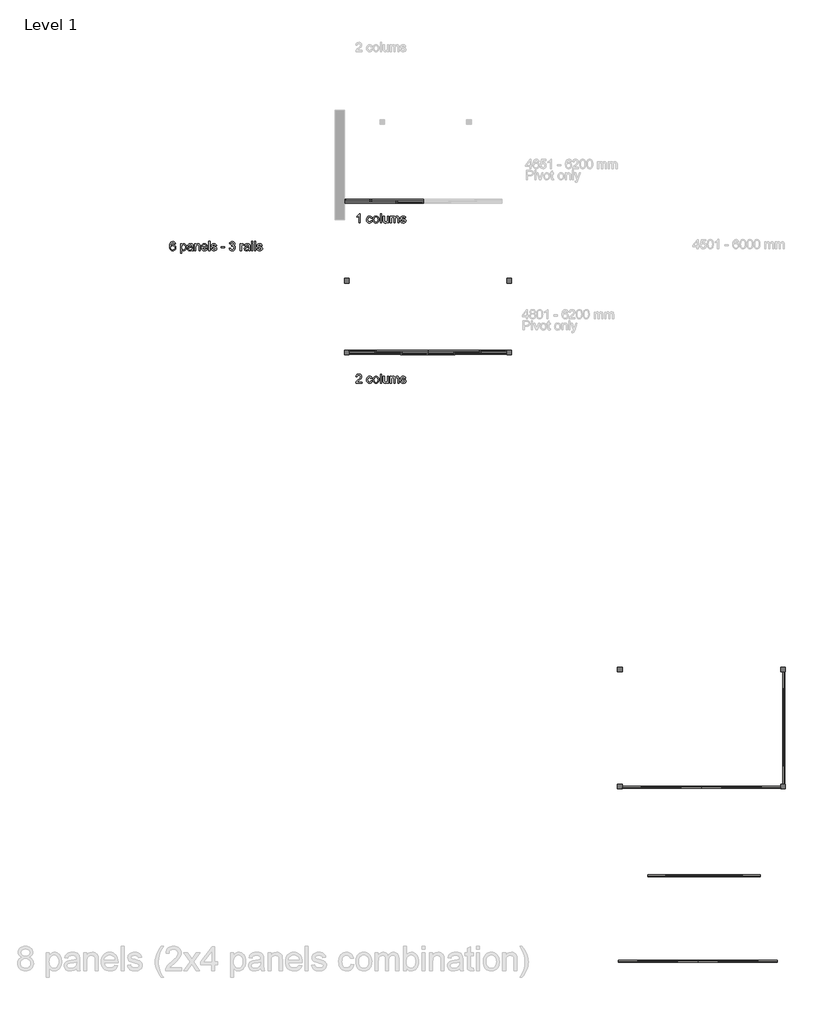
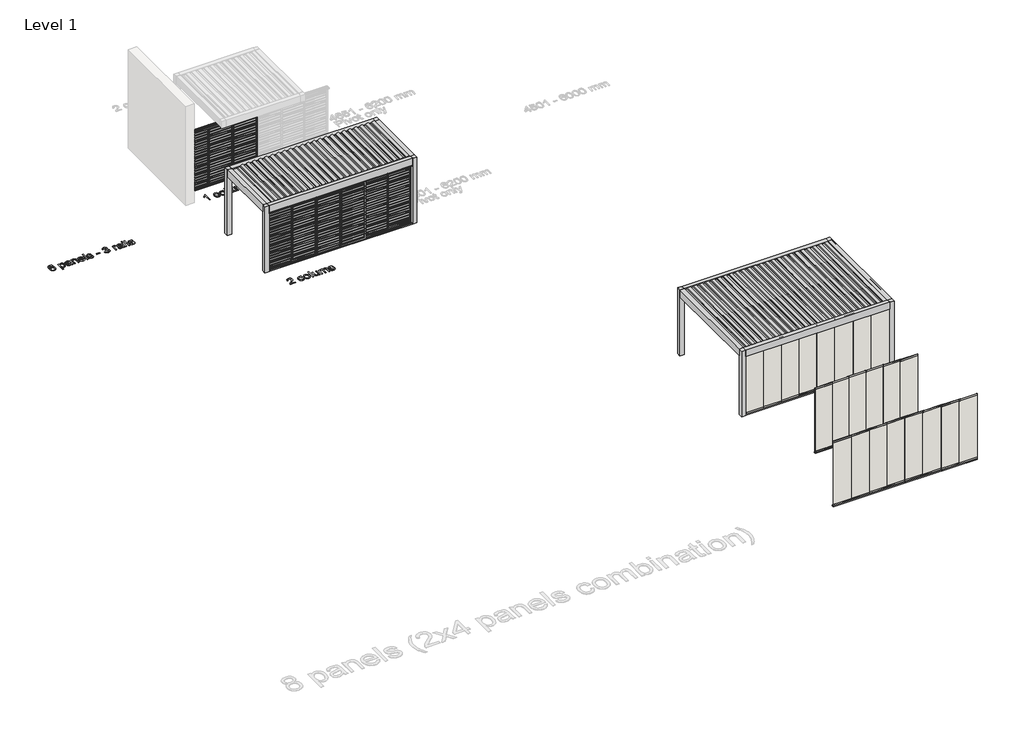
# One storey, part 25 of 69: 14 proxies, 8 walls.
"""IFC4 building model written with IfcOpenShell, lengths in millimetres."""

from ifc_helpers import new_model, si_unit, origin, origin_with_axes, place, context, project, spatial, polyline, outline, extrude, transform, mapped, element, save
from components import generic_models_aff1b167, generic_models_f089082d, generic_models_3065fe86, generic_models_bb3b5c1f, generic_models_54599b27, generic_models_b124467e, generic_models_e222f84e, generic_models_d265cbf2, wall_3cf4a07c, wall_8333f241, wall_16a51fea, wall_a274b0d1

model = new_model("IFC4")

# Units and contexts
model_context = context("Model", 3, world=origin())
ifc_project = project(units=[si_unit("LENGTHUNIT", "METRE", prefix="MILLI")], contexts=[model_context])

# Site, building, storey
site = spatial("IfcSite", under=ifc_project)
building = spatial("IfcBuilding", under=site)
storey = spatial("IfcBuildingStorey", under=building, Name="Level 1", Elevation=0.0)

# Proxies
placement = place(None, origin())
generic_models_shape = generic_models_aff1b167(model_context)
element("IfcBuildingElementProxy", 1, Name="Renson_Camargue_Loggia_Paro_Aluminium : Renson_Camargue_Loggia_Paro_Aluminium", ObjectType="Renson_Camargue_Loggia_Paro_Aluminium : Renson_Camargue_Loggia_Paro_Aluminium", at=placement, inside=storey, context=model_context, shape_type="MappedRepresentation", body=[
    mapped(generic_models_shape, transform((231393.7027724, -33071.741664, 0.0), x_axis=(1.0, 0.0, 0.0), y_axis=(0.0, 1.0, 0.0), z_axis=(0.0, 0.0, 1.0))),
])
element("IfcBuildingElementProxy", 2, Name="Renson_Camargue_Loggia_Paro_Aluminium : Renson_Camargue_Loggia_Paro_Aluminium", ObjectType="Renson_Camargue_Loggia_Paro_Aluminium : Renson_Camargue_Loggia_Paro_Aluminium", at=placement, inside=storey, context=model_context, shape_type="MappedRepresentation", body=[
    mapped(generic_models_shape, transform((231543.7027724, -38028.908141, 0.0), x_axis=(1.0, 0.0, 0.0), y_axis=(0.0, 1.0, 0.0), z_axis=(0.0, 0.0, 1.0))),
])
generic_models_2_shape = generic_models_f089082d(model_context)
element("IfcBuildingElementProxy", 3, Name="Renson_Camargue_Loggia_Paro_Aluminium : Renson_Camargue_Loggia_Paro_Aluminium", ObjectType="Renson_Camargue_Loggia_Paro_Aluminium : Renson_Camargue_Loggia_Paro_Aluminium", at=placement, inside=storey, context=model_context, shape_type="MappedRepresentation", body=[
    mapped(generic_models_2_shape, transform((230543.7027724, -33018.1511599, 0.0), x_axis=(1.0, 0.0, 0.0), y_axis=(0.0, 1.0, 0.0), z_axis=(0.0, 0.0, 1.0))),
])
element("IfcBuildingElementProxy", 4, Name="Renson_Camargue_Loggia_Paro_Aluminium : Renson_Camargue_Loggia_Paro_Aluminium", ObjectType="Renson_Camargue_Loggia_Paro_Aluminium : Renson_Camargue_Loggia_Paro_Aluminium", at=placement, inside=storey, context=model_context, shape_type="MappedRepresentation", body=[
    mapped(generic_models_2_shape, transform((230693.7027724, -37975.3176369, 0.0), x_axis=(1.0, 0.0, 0.0), y_axis=(0.0, 1.0, 0.0), z_axis=(0.0, 0.0, 1.0))),
])
generic_models_3_shape = generic_models_3065fe86(model_context)
element("IfcBuildingElementProxy", 5, Name="Renson_Camargue_Loggia_Paro_Aluminium : Renson_Camargue_Loggia_Paro_Aluminium", ObjectType="Renson_Camargue_Loggia_Paro_Aluminium : Renson_Camargue_Loggia_Paro_Aluminium", at=placement, inside=storey, context=model_context, shape_type="MappedRepresentation", body=[
    mapped(generic_models_3_shape, transform((229693.7027724, -32969.5606558, 0.0), x_axis=(1.0, 0.0, 0.0), y_axis=(0.0, 1.0, 0.0), z_axis=(0.0, 0.0, 1.0))),
])
element("IfcBuildingElementProxy", 6, Name="Renson_Camargue_Loggia_Paro_Aluminium : Renson_Camargue_Loggia_Paro_Aluminium", ObjectType="Renson_Camargue_Loggia_Paro_Aluminium : Renson_Camargue_Loggia_Paro_Aluminium", at=placement, inside=storey, context=model_context, shape_type="MappedRepresentation", body=[
    mapped(generic_models_3_shape, transform((229843.7027724, -37926.7271328, 0.0), x_axis=(1.0, 0.0, 0.0), y_axis=(0.0, 1.0, 0.0), z_axis=(0.0, 0.0, 1.0))),
])
generic_models_4_shape = generic_models_bb3b5c1f(model_context)
element("IfcBuildingElementProxy", 7, Name="Renson_Camargue_Loggia_Paro_Aluminium : Renson_Camargue_Loggia_Paro_Aluminium", ObjectType="Renson_Camargue_Loggia_Paro_Aluminium : Renson_Camargue_Loggia_Paro_Aluminium", at=placement, inside=storey, context=model_context, shape_type="MappedRepresentation", body=[
    mapped(generic_models_4_shape, transform((234133.7027724, -37926.7271328, 0.0), x_axis=(-1.0, 0.0, 0.0), y_axis=(0.0, -1.0, 0.0), z_axis=(0.0, 0.0, 1.0))),
])
generic_models_5_shape = generic_models_54599b27(model_context)
element("IfcBuildingElementProxy", 8, Name="Renson_Camargue_Loggia_Paro_Aluminium : Renson_Camargue_Loggia_Paro_Aluminium", ObjectType="Renson_Camargue_Loggia_Paro_Aluminium : Renson_Camargue_Loggia_Paro_Aluminium", at=placement, inside=storey, context=model_context, shape_type="MappedRepresentation", body=[
    mapped(generic_models_5_shape, transform((233283.7027724, -37975.3176369, 0.0), x_axis=(-1.0, 0.0, 0.0), y_axis=(0.0, -1.0, 0.0), z_axis=(0.0, 0.0, 1.0))),
])
generic_models_6_shape = generic_models_b124467e(model_context)
element("IfcBuildingElementProxy", 9, Name="Renson_Camargue_Loggia_Paro_Aluminium : Renson_Camargue_Loggia_Paro_Aluminium", ObjectType="Renson_Camargue_Loggia_Paro_Aluminium : Renson_Camargue_Loggia_Paro_Aluminium", at=placement, inside=storey, context=model_context, shape_type="MappedRepresentation", body=[
    mapped(generic_models_6_shape, transform((232433.7027724, -38028.908141, 0.0), x_axis=(-1.0, 0.0, 0.0), y_axis=(0.0, -1.0, 0.0), z_axis=(0.0, 0.0, 1.0))),
])
generic_models_7_shape = generic_models_e222f84e(model_context)
element("IfcBuildingElementProxy", 10, Name="Renson_Camargue_Freestanding_Patio covers : Renson_Camargue_Freestanding_Patio covers", ObjectType="Renson_Camargue_Freestanding_Patio covers : Renson_Camargue_Freestanding_Patio covers", at=placement, inside=storey, context=model_context, shape_type="MappedRepresentation", body=[
    mapped(generic_models_7_shape, transform((240965.9810446, -50299.1002025, 0.0), x_axis=(1.0, 0.0, 0.0), y_axis=(0.0, 1.0, 0.0), z_axis=(0.0, 0.0, 1.0))),
])
generic_models_8_shape = generic_models_d265cbf2(model_context)
element("IfcBuildingElementProxy", 11, Name="Renson_Camargue_Freestanding_Patio covers : Renson_Camargue_Freestanding_Patio covers", ObjectType="Renson_Camargue_Freestanding_Patio covers : Renson_Camargue_Freestanding_Patio covers", at=placement, inside=storey, context=model_context, shape_type="MappedRepresentation", body=[
    mapped(generic_models_8_shape, transform((231988.7027724, -36801.7271328, 0.0), x_axis=(1.0, 0.0, 0.0), y_axis=(0.0, 1.0, 0.0), z_axis=(0.0, 0.0, 1.0))),
])
element("IfcBuildingElementProxy", 12, Name="300mm Arial", ObjectType="300mm Arial", at=placement, inside=storey, context=model_context, shape_type="SweptSolid", body=[
    extrude(outline(polyline([(223710.7497808, -34417.791258), (223673.0786645, -34422.5001475), (223667.0086116, -34403.8301363), (223658.8048431, -34391.0830251), (223641.7167244, -34379.3291954), (223621.0601504, -34375.4112521), (223603.5489674, -34377.6921205), (223587.0678541, -34384.5347256), (223572.9135943, -34398.9465028), (223561.3529026, -34418.7845394), (223553.5446073, -34446.8447386), (223550.6475365, -34485.9230035), (223565.7582895, -34468.2922589), (223583.8672807, -34455.8670445), (223603.9628347, -34448.5002075), (223625.033276, -34446.0445952), (223643.1330701, -34447.7230568), (223659.8349127, -34452.7584416), (223675.1388037, -34461.1507497), (223689.0447431, -34472.8999809), (223700.6008363, -34487.3071595), (223708.8551886, -34503.6733098), (223713.8077999, -34521.9984317), (223715.4586704, -34542.2825252), (223712.3500675, -34569.2574725), (223703.0242589, -34594.2642511), (223688.2537968, -34615.4726481), (223668.8112334, -34631.0524506), (223645.5794854, -34640.6265795), (223619.4414696, -34643.8179558), (223596.9845731, -34641.7026344), (223576.7027789, -34635.3566699), (223558.5960869, -34624.7800626), (223542.6644972, -34609.9728123), (223529.6759636, -34590.3095196), (223520.3984395, -34565.1647853), (223514.8319251, -34534.5386092), (223512.9764202, -34498.4309913), (223515.0365594, -34457.9501763), (223521.2169769, -34423.4014584), (223531.5176728, -34394.7848377), (223545.938647, -34372.1003142), (223561.5690333, -34357.0677362), (223579.6918201, -34346.3301804), (223600.3070074, -34339.887647), (223623.4145952, -34337.7401358), (223656.4687925, -34343.0560307), (223682.937902, -34359.0037152), (223701.4791546, -34384.3323905), (223710.7497808, -34417.791258)]), holes=[polyline([(223550.6475365, -34541.693914), (223552.8272374, -34558.3865595), (223559.3663398, -34574.3250469), (223569.5198829, -34588.0286513), (223582.5429055, -34598.0166474), (223598.2606638, -34604.1142915), (223616.4984137, -34606.1468395), (223641.3580395, -34601.9345907), (223660.9017705, -34589.2978441), (223673.5661082, -34569.4322164), (223677.7875541, -34543.5333239), (223673.6212905, -34518.6736981), (223661.1224997, -34499.7185783), (223641.2476749, -34487.7164282), (223614.9533093, -34483.7157115), (223590.1304717, -34487.7164282), (223569.3727301, -34499.7185783), (223555.3288349, -34518.2138456), (223550.6475365, -34541.693914)])]), origin_with_axes(), (0.0, 0.0, 1.0), 5.0),
    extrude(outline(polyline([(223875.5609147, -34723.869078), (223875.5609147, -34417.791258), (223913.232031, -34417.791258), (223913.232031, -34454.7266103), (223925.5192896, -34436.5072545), (223939.2780762, -34423.4934289), (223955.3177312, -34415.6851336), (223974.447595, -34413.0823685), (223999.9234232, -34416.7244002), (224022.198678, -34427.6504955), (224040.3352603, -34445.1984666), (224053.3950712, -34468.7061261), (224061.2861399, -34496.4628227), (224063.9164962, -34526.757905), (224060.9458491, -34558.9751707), (224052.0339078, -34587.789528), (224037.4657808, -34611.7386459), (224017.5265766, -34629.3601934), (223994.3040257, -34640.2035152), (223969.8858582, -34643.8179558), (223952.5678133, -34641.3991317), (223937.1075725, -34634.1426594), (223923.8730177, -34623.188973), (223913.232031, -34609.6785067), (223913.232031, -34723.869078), (223875.5609147, -34723.869078)]), holes=[polyline([(223913.232031, -34530.2159957), (223917.3063241, -34563.9875629), (223929.5292034, -34587.605587), (223947.5646182, -34601.5115264), (223969.0765179, -34606.1468395), (223990.9379054, -34601.3459795), (224009.4331727, -34586.9433994), (224022.0423281, -34562.4608526), (224026.2453799, -34527.4200926), (224022.1434957, -34493.8324664), (224009.8378429, -34469.8833485), (223991.8300193, -34455.5359507), (223970.6216222, -34450.7534848), (223949.3304518, -34455.8394533), (223930.6328494, -34471.0973591), (223917.5822356, -34496.0489554), (223913.232031, -34530.2159957)])]), origin_with_axes(), (0.0, 0.0, 1.0), 5.0),
    extrude(outline(polyline([(224247.5631882, -34610.8557291), (224229.5645616, -34626.2883788), (224211.0325061, -34636.3867395), (224191.5439574, -34641.9601518), (224170.6758512, -34643.8179558), (224139.1943495, -34639.3481896), (224115.9717985, -34625.9388909), (224101.6519919, -34605.5766224), (224096.878723, -34580.2479471), (224098.6813448, -34564.6313564), (224104.0892101, -34550.4495055), (224112.4309343, -34538.3093996), (224123.0351328, -34528.8180441), (224149.4122719, -34516.4572091), (224182.0066167, -34510.7918264), (224220.5238616, -34504.8321381), (224247.342459, -34497.8423801), (224247.5631882, -34489.4546707), (224244.9696201, -34472.6424635), (224237.1889159, -34461.6427918), (224219.7880976, -34453.4758115), (224195.5446741, -34450.7534848), (224173.1038724, -34452.5653036), (224157.4320994, -34458.0007601), (224146.7451274, -34468.0531356), (224139.2587288, -34483.7157115), (224101.5876125, -34479.006822), (224108.126715, -34458.4054303), (224117.8847849, -34442.2186225), (224131.7723302, -34429.8393933), (224150.6998589, -34420.6607376), (224173.8488334, -34414.9769607), (224200.4007164, -34413.0823685), (224225.8673475, -34414.7562315), (224246.054872, -34419.7778208), (224261.2759896, -34427.3285987), (224271.8433999, -34436.5900279), (224278.8515519, -34448.040355), (224283.3948945, -34462.1578266), (224285.2343045, -34495.1200534), (224285.2343045, -34541.9882196), (224287.1472909, -34607.4344265), (224294.6520836, -34639.1090663), (224256.9809673, -34639.1090663), (224247.5631882, -34610.8557291)]), holes=[polyline([(224247.5631882, -34535.5134965), (224186.7890826, -34547.0649911), (224154.3786788, -34553.1718322), (224139.7001872, -34563.1046461), (224134.5498393, -34577.5991967), (224137.3549395, -34588.8012035), (224145.7702401, -34597.9798592), (224159.6118002, -34604.1050945), (224178.6956787, -34606.1468395), (224198.9291884, -34603.8935623), (224216.8082534, -34597.1337306), (224231.302804, -34587.1733256), (224241.3827707, -34575.3183283), (224245.8525369, -34563.1046461), (224247.342459, -34546.1820743), (224247.5631882, -34535.5134965)])]), origin_with_axes(), (0.0, 0.0, 1.0), 5.0),
    extrude(outline(polyline([(224337.0320894, -34639.1090663), (224337.0320894, -34417.791258), (224374.7032057, -34417.791258), (224374.7032057, -34448.6933456), (224387.7906077, -34433.1135431), (224403.508366, -34421.9851127), (224421.8564805, -34415.3080545), (224442.8349512, -34413.0823685), (224461.403795, -34414.8757932), (224478.4091402, -34420.2560674), (224492.5909911, -34428.5518064), (224502.6893519, -34439.0916255), (224513.9833291, -34466.7931398), (224515.9698919, -34503.2134573), (224515.9698919, -34639.1090663), (224478.2987756, -34639.1090663), (224478.2987756, -34508.2902288), (224473.957768, -34474.96012), (224467.9520945, -34465.0365032), (224458.6170888, -34457.3385725), (224446.6517269, -34452.3997567), (224432.7549846, -34450.7534848), (224410.6912619, -34454.4506988), (224391.8832949, -34465.542341), (224384.3670059, -34474.5968366), (224378.998228, -34486.9714672), (224374.7032057, -34521.6811334), (224374.7032057, -34639.1090663), (224337.0320894, -34639.1090663)])), origin_with_axes(), (0.0, 0.0, 1.0), 5.0),
    extrude(outline(polyline([(224722.7195732, -34573.1846128), (224759.6549255, -34577.8935023), (224746.3467943, -34605.7237752), (224725.1108061, -34626.5275021), (224696.4252076, -34639.4953424), (224660.7682452, -34643.8179558), (224637.3939429, -34641.953254), (224616.5672235, -34636.3591484), (224598.2880868, -34627.0356391), (224582.556533, -34613.982726), (224569.9059909, -34597.5636927), (224560.8698894, -34578.1418226), (224555.4482285, -34555.7171158), (224553.6410082, -34530.2895721), (224555.4666226, -34503.999805), (224560.9434658, -34480.8278379), (224570.0715378, -34460.7736706), (224582.8508386, -34443.8373033), (224598.5410057, -34430.3820193), (224616.4016766, -34420.7711022), (224636.4328512, -34415.0045519), (224658.6345296, -34413.0823685), (224680.1211374, -34414.9999534), (224699.5522045, -34420.7527081), (224716.927731, -34430.3406326), (224732.2477169, -34443.7637269), (224744.7534054, -34460.663306), (224753.6860401, -34480.6806851), (224759.0456209, -34503.815864), (224760.8321479, -34530.0688429), (224760.6114187, -34540.222386), (224591.3121245, -34540.222386), (224597.8328329, -34568.4205409), (224612.980374, -34589.1506913), (224634.8417616, -34601.8978025), (224661.5040092, -34606.1468395), (224681.5535779, -34604.1786709), (224698.4393615, -34598.2741648), (224712.1613599, -34588.0654395), (224722.7195732, -34573.1846128)]), holes=[polyline([(224591.3121245, -34502.5512697), (224723.1610316, -34502.5512697), (224718.0658659, -34482.6488537), (224708.0778698, -34468.4118205), (224686.1153147, -34455.1680687), (224658.4873768, -34450.7534848), (224633.0943221, -34454.2759549), (224612.0974572, -34464.8433652), (224597.5017391, -34481.3152815), (224591.3121245, -34502.5512697)])]), origin_with_axes(), (0.0, 0.0, 1.0), 5.0),
    extrude(outline(polyline([(224798.5032642, -34639.1090663), (224798.5032642, -34337.7401358), (224836.1743805, -34337.7401358), (224836.1743805, -34639.1090663), (224798.5032642, -34639.1090663)])), origin_with_axes(), (0.0, 0.0, 1.0), 5.0),
    extrude(outline(polyline([(224878.5543863, -34573.1846128), (224916.2255026, -34568.4757232), (224922.1667969, -34584.5889546), (224933.6631092, -34596.4347549), (224950.7880161, -34603.7188184), (224973.6150939, -34606.1468395), (224996.1662602, -34603.9211535), (225012.0219742, -34597.2440952), (225021.4029651, -34587.5687988), (225024.529962, -34576.3483979), (225021.384571, -34566.7466778), (225011.9483978, -34559.4258261), (224973.1736355, -34548.6836719), (224916.4462318, -34530.2527839), (224902.089637, -34520.9913547), (224891.6877736, -34508.7316872), (224885.3694003, -34494.2555307), (224883.2632759, -34478.3446344), (224884.955533, -34463.7489162), (224890.0323046, -34450.2752382), (224898.033738, -34438.4570291), (224908.4999807, -34428.8277178), (224932.4490986, -34417.6808934), (224964.8595024, -34413.0823685), (224989.3788374, -34414.9309755), (225010.697599, -34420.4767966), (225027.8409, -34429.1772057), (225039.833853, -34440.4895771), (225047.7801041, -34455.2508422), (225052.7832992, -34474.2979325), (225015.1121829, -34479.006822), (225010.3573082, -34467.1518247), (225000.9487261, -34458.2214893), (224986.7944664, -34452.6204859), (224967.8025584, -34450.7534848), (224946.171097, -34452.5377124), (224931.7501228, -34457.8903955), (224923.6383248, -34465.6159174), (224920.9343922, -34474.5186617), (224925.4225525, -34485.4815451), (224939.4756447, -34493.7956782), (224971.9228367, -34501.8155057), (225027.2155006, -34519.5474179), (225041.8204158, -34528.0270978), (225052.8936638, -34539.6337748), (225059.8742247, -34554.4042369), (225062.2010783, -34572.3752724), (225059.4695545, -34590.9533131), (225051.2749831, -34608.4277079), (225037.9300637, -34623.4280962), (225019.7474961, -34634.5841178), (224997.784941, -34641.5094963), (224973.1000591, -34643.8179558), (224935.1162431, -34639.3665837), (224907.3963348, -34626.0124673), (224888.8918704, -34603.9027594), (224878.5543863, -34573.1846128)])), origin_with_axes(), (0.0, 0.0, 1.0), 5.0),
    extrude(outline(polyline([(225203.4677645, -34549.6401651), (225203.4677645, -34511.9690488), (225321.1900029, -34511.9690488), (225321.1900029, -34549.6401651), (225203.4677645, -34549.6401651)])), origin_with_axes(), (0.0, 0.0, 1.0), 5.0),
    extrude(outline(polyline([(225471.8744682, -34559.0579441), (225509.5455845, -34554.3490546), (225517.9792792, -34578.022261), (225530.3309172, -34594.0067337), (225547.2075037, -34603.1118131), (225569.2160441, -34606.1468395), (225595.0413601, -34601.9713789), (225614.9805643, -34589.4449969), (225627.7276754, -34570.7565916), (225631.9767125, -34548.0950607), (225627.7644636, -34526.583161), (225615.1277171, -34509.1363574), (225595.9978533, -34497.5756657), (225572.3062528, -34493.7221018), (225545.8923256, -34497.8423801), (225550.0861803, -34460.1712638), (225556.1194451, -34460.6127222), (225578.6890055, -34457.9087896), (225598.8673329, -34449.7969916), (225613.1043661, -34436.0749932), (225617.8500438, -34416.5404592), (225614.4103472, -34400.270878), (225604.0912572, -34387.0731114), (225588.3459078, -34378.326717), (225568.6274329, -34375.4112521), (225548.8721697, -34378.3543081), (225532.7221502, -34387.183476), (225520.9315322, -34401.8987558), (225514.254474, -34422.5001475), (225476.5833577, -34417.791258), (225487.6749998, -34383.9645085), (225507.4118689, -34358.7094096), (225534.4144073, -34342.9824543), (225567.3030577, -34337.7401358), (225590.9854611, -34340.3245069), (225612.7364841, -34348.0776199), (225631.0754016, -34360.3096962), (225644.5214885, -34376.3309571), (225652.7712422, -34394.7894362), (225655.5211601, -34414.3331672), (225652.909198, -34432.543326), (225645.0733115, -34449.0612276), (225632.1238653, -34463.1327139), (225614.1712239, -34474.0036269), (225637.7524598, -34483.5317705), (225655.2268546, -34499.7553665), (225666.0425852, -34521.791498), (225669.6478288, -34548.7572483), (225667.845207, -34567.8687179), (225662.4373417, -34585.4718714), (225653.4242328, -34601.5667087), (225640.8058803, -34616.1532298), (225625.4330115, -34628.2565474), (225608.1563533, -34636.9017743), (225588.9759057, -34642.0889105), (225567.8916689, -34643.8179558), (225548.8353815, -34642.3418293), (225531.4713514, -34637.9134498), (225515.7995784, -34630.5328173), (225501.8200626, -34620.1999317), (225490.0984225, -34607.5217985), (225481.2002767, -34593.1054228), (225475.1256253, -34576.9508047), (225471.8744682, -34559.0579441)])), origin_with_axes(), (0.0, 0.0, 1.0), 5.0),
    extrude(outline(polyline([(225829.7500731, -34639.1090663), (225829.7500731, -34417.791258), (225862.7122998, -34417.791258), (225862.7122998, -34450.5327556), (225874.8891939, -34431.5500446), (225886.1095947, -34420.366432), (225897.3667838, -34414.9033843), (225909.6540424, -34413.0823685), (225928.4160242, -34415.9886362), (225947.4723115, -34424.7074395), (225934.8907473, -34458.4790067), (225921.6469955, -34452.6848652), (225908.4032436, -34450.7534848), (225897.1552516, -34452.6112888), (225887.1028761, -34458.1847011), (225878.9818811, -34467.0506571), (225873.5280305, -34478.7860928), (225868.9478996, -34499.8289429), (225867.4211894, -34522.7847794), (225867.4211894, -34639.1090663), (225829.7500731, -34639.1090663)])), origin_with_axes(), (0.0, 0.0, 1.0), 5.0),
    extrude(outline(polyline([(226112.2834454, -34610.8557291), (226094.2848187, -34626.2883788), (226075.7527632, -34636.3867395), (226056.2642145, -34641.9601518), (226035.3961084, -34643.8179558), (226003.9146066, -34639.3481896), (225980.6920557, -34625.9388909), (225966.372249, -34605.5766224), (225961.5989801, -34580.2479471), (225963.4016019, -34564.6313564), (225968.8094672, -34550.4495055), (225977.1511915, -34538.3093996), (225987.75539, -34528.8180441), (226014.132529, -34516.4572091), (226046.7268738, -34510.7918264), (226085.2441187, -34504.8321381), (226112.0627162, -34497.8423801), (226112.2834454, -34489.4546707), (226109.6898773, -34472.6424635), (226101.9091731, -34461.6427918), (226084.5083547, -34453.4758115), (226060.2649312, -34450.7534848), (226037.8241295, -34452.5653036), (226022.1523565, -34458.0007601), (226011.4653846, -34468.0531356), (226003.978986, -34483.7157115), (225966.3078697, -34479.006822), (225972.8469721, -34458.4054303), (225982.6050421, -34442.2186225), (225996.4925874, -34429.8393933), (226015.420116, -34420.6607376), (226038.5690906, -34414.9769607), (226065.1209736, -34413.0823685), (226090.5876047, -34414.7562315), (226110.7751292, -34419.7778208), (226125.9962467, -34427.3285987), (226136.563657, -34436.5900279), (226143.571809, -34448.040355), (226148.1151517, -34462.1578266), (226149.9545617, -34495.1200534), (226149.9545617, -34541.9882196), (226151.867548, -34607.4344265), (226159.3723407, -34639.1090663), (226121.7012244, -34639.1090663), (226112.2834454, -34610.8557291)]), holes=[polyline([(226112.2834454, -34535.5134965), (226051.5093398, -34547.0649911), (226019.098936, -34553.1718322), (226004.4204444, -34563.1046461), (225999.2700964, -34577.5991967), (226002.0751967, -34588.8012035), (226010.4904973, -34597.9798592), (226024.3320574, -34604.1050945), (226043.4159359, -34606.1468395), (226063.6494456, -34603.8935623), (226081.5285106, -34597.1337306), (226096.0230612, -34587.1733256), (226106.1030278, -34575.3183283), (226110.5727941, -34563.1046461), (226112.0627162, -34546.1820743), (226112.2834454, -34535.5134965)])]), origin_with_axes(), (0.0, 0.0, 1.0), 5.0),
    extrude(outline(polyline([(226201.7523466, -34375.4112521), (226201.7523466, -34337.7401358), (226239.4234629, -34337.7401358), (226239.4234629, -34375.4112521), (226201.7523466, -34375.4112521)])), origin_with_axes(), (0.0, 0.0, 1.0), 5.0),
    extrude(outline(polyline([(226201.7523466, -34639.1090663), (226201.7523466, -34417.791258), (226239.4234629, -34417.791258), (226239.4234629, -34639.1090663), (226201.7523466, -34639.1090663)])), origin_with_axes(), (0.0, 0.0, 1.0), 5.0),
    extrude(outline(polyline([(226295.9301374, -34639.1090663), (226295.9301374, -34337.7401358), (226333.6012537, -34337.7401358), (226333.6012537, -34639.1090663), (226295.9301374, -34639.1090663)])), origin_with_axes(), (0.0, 0.0, 1.0), 5.0),
    extrude(outline(polyline([(226375.9812595, -34573.1846128), (226413.6523758, -34568.4757232), (226419.59367, -34584.5889546), (226431.0899824, -34596.4347549), (226448.2148893, -34603.7188184), (226471.0419671, -34606.1468395), (226493.5931334, -34603.9211535), (226509.4488474, -34597.2440952), (226518.8298382, -34587.5687988), (226521.9568352, -34576.3483979), (226518.8114441, -34566.7466778), (226509.375271, -34559.4258261), (226470.6005087, -34548.6836719), (226413.873105, -34530.2527839), (226399.5165101, -34520.9913547), (226389.1146467, -34508.7316872), (226382.7962735, -34494.2555307), (226380.690149, -34478.3446344), (226382.3824062, -34463.7489162), (226387.4591778, -34450.2752382), (226395.4606111, -34438.4570291), (226405.9268539, -34428.8277178), (226429.8759718, -34417.6808934), (226462.2863756, -34413.0823685), (226486.8057105, -34414.9309755), (226508.1244722, -34420.4767966), (226525.2677731, -34429.1772057), (226537.2607262, -34440.4895771), (226545.2069773, -34455.2508422), (226550.2101724, -34474.2979325), (226512.5390561, -34479.006822), (226507.7841813, -34467.1518247), (226498.3755993, -34458.2214893), (226484.2213395, -34452.6204859), (226465.2294315, -34450.7534848), (226443.5979702, -34452.5377124), (226429.176996, -34457.8903955), (226421.065198, -34465.6159174), (226418.3612653, -34474.5186617), (226422.8494257, -34485.4815451), (226436.9025179, -34493.7956782), (226469.3497099, -34501.8155057), (226524.6423738, -34519.5474179), (226539.247289, -34528.0270978), (226550.320537, -34539.6337748), (226557.3010979, -34554.4042369), (226559.6279515, -34572.3752724), (226556.8964277, -34590.9533131), (226548.7018562, -34608.4277079), (226535.3569369, -34623.4280962), (226517.1743692, -34634.5841178), (226495.2118141, -34641.5094963), (226470.5269323, -34643.8179558), (226432.5431163, -34639.3665837), (226404.8232079, -34626.0124673), (226386.3187436, -34603.9027594), (226375.9812595, -34573.1846128)])), origin_with_axes(), (0.0, 0.0, 1.0), 5.0),
])
element("IfcBuildingElementProxy", 13, Name="300mm Arial", ObjectType="300mm Arial", at=placement, inside=storey, context=model_context, shape_type="SweptSolid", body=[
    extrude(outline(polyline([(229821.478426, -38950.7241698), (229821.478426, -38988.3952861), (229623.7050654, -38988.3952861), (229627.7517673, -38962.4228172), (229637.0407877, -38942.1249282), (229650.6340274, -38922.4340444), (229670.2973201, -38901.8234556), (229697.7964992, -38878.7664515), (229738.4474597, -38842.6588337), (229762.838036, -38816.0057832), (229775.0333241, -38794.3743218), (229779.0984202, -38773.3314717), (229775.2632504, -38754.4683224), (229763.757741, -38738.7873524), (229746.071814, -38728.2199421), (229723.6953917, -38724.697472), (229700.1969292, -38728.1371686), (229681.9407852, -38738.4562586), (229670.1593643, -38754.8454015), (229666.0850712, -38776.4952569), (229628.4139549, -38771.7863673), (229637.5466255, -38735.3476557), (229646.0929841, -38720.8117184), (229657.2926916, -38708.7313934), (229670.8882305, -38699.2354394), (229686.6220836, -38692.4526151), (229724.5047321, -38687.0263556), (229744.6945558, -38688.5346718), (229762.663292, -38693.0596204), (229778.4109407, -38700.6012013), (229791.9375018, -38711.1594145), (229802.801517, -38723.9525109), (229810.5615278, -38738.1987412), (229815.2175343, -38753.8981053), (229816.7695365, -38771.0506033), (229815.0956734, -38789.0676241), (229810.0740842, -38806.7719451), (229801.1621428, -38824.7797687), (229787.8172234, -38843.7072974), (229766.5444471, -38866.3044489), (229733.8489348, -38895.3211413), (229690.5124357, -38931.5575178), (229673.5162875, -38950.7241698), (229821.478426, -38950.7241698)])), origin_with_axes(), (0.0, 0.0, 1.0), 5.0),
    extrude(outline(polyline([(230127.556246, -38908.3441639), (230165.2273623, -38913.0530535), (230154.7243313, -38946.5579062), (230134.9874623, -38971.8773845), (230107.8745593, -38987.7974779), (230075.2434263, -38993.1041756), (230054.1155034, -38991.2532693), (230035.17188, -38985.7005505), (230018.4125558, -38976.446019), (230003.837531, -38963.489675), (229992.0400153, -38947.0752403), (229983.6132183, -38927.4464365), (229978.5571402, -38904.6032639), (229976.8717808, -38878.5457223), (229979.7504574, -38845.0224755), (229988.3864872, -38815.968995), (230002.917826, -38792.5073207), (230023.4824296, -38775.7594929), (230048.084538, -38765.7163144), (230074.7283915, -38762.3685883), (230106.5593811, -38766.9671132), (230132.0076181, -38780.762688), (230150.2637621, -38803.0195487), (230160.5184728, -38833.0019313), (230122.8473565, -38837.7108209), (230116.0139484, -38821.2756927), (230105.3729617, -38809.4942718), (230091.5130075, -38802.4033464), (230075.0226971, -38800.0397046), (230050.6781061, -38804.6934118), (230031.3551043, -38818.6545335), (230018.7459489, -38842.6772278), (230014.5428971, -38877.5156528), (230018.6539784, -38912.8231272), (230030.9872223, -38936.928595), (230049.9607362, -38950.8069432), (230073.9926275, -38955.4330593), (230093.4995703, -38952.5451857), (230109.49324, -38943.8815647), (230121.1275081, -38929.2214672), (230127.556246, -38908.3441639)])), origin_with_axes(), (0.0, 0.0, 1.0), 5.0),
    extrude(outline(polyline([(230188.77181, -38877.7363819), (230190.8089565, -38849.073776), (230196.9203962, -38824.3750985), (230207.1061289, -38803.6403496), (230221.3661548, -38786.8695291), (230235.7227496, -38776.1503675), (230251.5692666, -38768.4938235), (230268.9057056, -38763.8998971), (230287.7320667, -38762.3685883), (230308.5151002, -38764.2332901), (230327.3069723, -38769.8273957), (230344.1076832, -38779.150905), (230358.9172328, -38792.2038181), (230371.0044556, -38808.5446764), (230379.6381861, -38827.7320218), (230384.8184245, -38849.765854), (230386.5451706, -38874.6461732), (230383.49175, -38912.7035656), (230374.3314884, -38941.6742727), (230359.3311, -38963.3701134), (230338.7572994, -38979.6029064), (230314.3207379, -38989.7288583), (230287.7320667, -38993.1041756), (230266.6455306, -38991.2463716), (230247.6789145, -38985.6729593), (230230.8322184, -38976.383939), (230216.1054422, -38963.3793104), (230204.1469781, -38946.8798029), (230195.6052181, -38927.1061457), (230190.480162, -38904.0583387), (230188.77181, -38877.7363819)]), holes=[polyline([(230226.4429263, -38877.6628055), (230230.8023279, -38911.7562695), (230243.8805329, -38936.0456782), (230263.5622196, -38950.586214), (230287.7320667, -38955.4330593), (230311.7915492, -38950.5586229), (230331.4364477, -38935.9353136), (230344.5146526, -38911.3240081), (230348.8740543, -38876.4855832), (230344.4870615, -38843.3854006), (230331.3260831, -38819.4270857), (230311.6535934, -38804.8865499), (230287.7320667, -38800.0397046), (230263.5622196, -38804.8681558), (230243.8805329, -38819.3535093), (230230.8023279, -38843.5877357), (230226.4429263, -38877.6628055)])]), origin_with_axes(), (0.0, 0.0, 1.0), 5.0),
    extrude(outline(polyline([(230428.9251764, -38988.3952861), (230428.9251764, -38687.0263556), (230466.5962927, -38687.0263556), (230466.5962927, -38988.3952861), (230428.9251764, -38988.3952861)])), origin_with_axes(), (0.0, 0.0, 1.0), 5.0),
    extrude(outline(polyline([(230664.3696534, -38988.3952861), (230664.3696534, -38950.3562878), (230650.7396254, -38969.0584887), (230634.8655173, -38982.4172037), (230616.7473291, -38990.4324326), (230596.3850606, -38993.1041756), (230578.0369461, -38991.2279775), (230560.9580245, -38985.5993829), (230546.6290208, -38977.138097), (230536.53066, -38966.7638248), (230525.3102592, -38939.0255223), (230523.1029672, -38904.0031564), (230523.1029672, -38767.0774778), (230560.7740835, -38767.0774778), (230560.7740835, -38886.2712442), (230563.0549519, -38924.6781245), (230568.5455907, -38937.489615), (230577.9541727, -38947.2292908), (230590.6552986, -38953.3821172), (230606.0235689, -38955.4330593), (230622.2747561, -38953.336132), (230637.4774795, -38947.0453498), (230650.0130585, -38937.1401271), (230658.2628122, -38924.1998779), (230662.8429431, -38906.4771628), (230664.3696534, -38882.2245423), (230664.3696534, -38767.0774778), (230702.0407697, -38767.0774778), (230702.0407697, -38988.3952861), (230664.3696534, -38988.3952861)])), origin_with_axes(), (0.0, 0.0, 1.0), 5.0),
    extrude(outline(polyline([(230753.8385546, -38988.3952861), (230753.8385546, -38767.0774778), (230791.5096709, -38767.0774778), (230791.5096709, -38803.4977953), (230802.8404363, -38786.7683616), (230817.4085633, -38773.6625655), (230834.7174112, -38765.1920826), (230854.2703393, -38762.3685883), (230875.2212189, -38765.2472649), (230892.015032, -38773.8832947), (230904.559808, -38787.7064607), (230912.7635765, -38806.1465457), (230926.494772, -38786.9936893), (230942.1573479, -38773.3130776), (230959.7513043, -38765.1047106), (230979.2766412, -38762.3685883), (231007.5943578, -38766.921128), (231028.5360404, -38780.578747), (231041.4762896, -38803.7093275), (231045.789706, -38836.6807513), (231045.789706, -38988.3952861), (231008.1185896, -38988.3952861), (231008.1185896, -38852.8675591), (231004.6237107, -38821.4136485), (230999.7124861, -38812.7408304), (230991.9685701, -38805.9258165), (230982.008165, -38801.5112325), (230970.4474733, -38800.0397046), (230950.0392197, -38803.810495), (230933.4017564, -38815.1228664), (230922.3377054, -38834.7493708), (230918.6496884, -38863.4625605), (230918.6496884, -38988.3952861), (230880.9785721, -38988.3952861), (230880.9785721, -38848.6737043), (230878.7988713, -38827.3733368), (230872.2597688, -38812.1798104), (230860.7542594, -38803.074731), (230843.6753378, -38800.0397046), (230829.1623931, -38802.0630555), (230815.7898826, -38808.1331085), (230804.7534227, -38818.1027105), (230797.24863, -38831.8247089), (230792.9444107, -38850.8626022), (230791.5096709, -38876.7798888), (230791.5096709, -38988.3952861), (230753.8385546, -38988.3952861)])), origin_with_axes(), (0.0, 0.0, 1.0), 5.0),
    extrude(outline(polyline([(231088.1697118, -38922.4708326), (231125.8408281, -38917.761943), (231131.7821223, -38933.8751744), (231143.2784347, -38945.7209747), (231160.4033416, -38953.0050382), (231183.2304194, -38955.4330593), (231205.7815857, -38953.2073733), (231221.6372996, -38946.530315), (231231.0182905, -38936.8550186), (231234.1452875, -38925.6346177), (231230.9998964, -38916.0328976), (231221.5637233, -38908.7120459), (231182.788961, -38897.9698917), (231126.0615573, -38879.5390037), (231111.7049624, -38870.2775745), (231101.303099, -38858.017907), (231094.9847258, -38843.5417505), (231092.8786013, -38827.6308542), (231094.5708585, -38813.035136), (231099.64763, -38799.561458), (231107.6490634, -38787.7432489), (231118.1153062, -38778.1139377), (231142.0644241, -38766.9671132), (231174.4748279, -38762.3685883), (231198.9941628, -38764.2171953), (231220.3129245, -38769.7630164), (231237.4562254, -38778.4634255), (231249.4491785, -38789.7757969), (231257.3954296, -38804.537062), (231262.3986247, -38823.5841523), (231224.7275084, -38828.2930418), (231219.9726336, -38816.4380445), (231210.5640516, -38807.5077091), (231196.4097918, -38801.9067057), (231177.4178838, -38800.0397046), (231155.7864225, -38801.8239322), (231141.3654483, -38807.1766153), (231133.2536503, -38814.9021372), (231130.5497176, -38823.8048815), (231135.037878, -38834.7677649), (231149.0909702, -38843.081898), (231181.5381622, -38851.1017255), (231236.8308261, -38868.8336377), (231251.4357413, -38877.3133177), (231262.5089893, -38888.9199946), (231269.4895502, -38903.6904567), (231271.8164038, -38921.6614922), (231269.08488, -38940.2395329), (231260.8903085, -38957.7139277), (231247.5453892, -38972.7143161), (231229.3628215, -38983.8703376), (231207.4002664, -38990.7957161), (231182.7153846, -38993.1041756), (231144.7315686, -38988.6528035), (231117.0116602, -38975.2986871), (231098.5071959, -38953.1889792), (231088.1697118, -38922.4708326)])), origin_with_axes(), (0.0, 0.0, 1.0), 5.0),
])
element("IfcBuildingElementProxy", 14, Name="300mm Arial", ObjectType="300mm Arial", at=placement, inside=storey, context=model_context, shape_type="SweptSolid", body=[
    extrude(outline(polyline([(229769.6806411, -33731.2288091), (229732.0095248, -33731.2288091), (229732.0095248, -33496.3729434), (229696.3249712, -33521.7935892), (229656.6672922, -33540.8130884), (229656.6672922, -33505.2021113), (229686.2542016, -33489.107274), (229711.8863796, -33469.9590161), (229732.0922982, -33449.5967477), (229745.4004294, -33429.8598787), (229769.6806411, -33429.8598787), (229769.6806411, -33731.2288091)])), origin_with_axes(), (0.0, 0.0, 1.0), 5.0),
    extrude(outline(polyline([(230127.556246, -33651.177687), (230165.2273623, -33655.8865765), (230154.7243313, -33689.3914292), (230134.9874623, -33714.7109075), (230107.8745593, -33730.6310009), (230075.2434263, -33735.9376986), (230054.1155034, -33734.0867924), (230035.17188, -33728.5340735), (230018.4125558, -33719.279542), (230003.837531, -33706.323198), (229992.0400153, -33689.9087633), (229983.6132183, -33670.2799595), (229978.5571402, -33647.4367869), (229976.8717808, -33621.3792453), (229979.7504574, -33587.8559985), (229988.3864872, -33558.802518), (230002.917826, -33535.3408437), (230023.4824296, -33518.5930159), (230048.084538, -33508.5498374), (230074.7283915, -33505.2021113), (230106.5593811, -33509.8006362), (230132.0076181, -33523.596211), (230150.2637621, -33545.8530717), (230160.5184728, -33575.8354543), (230122.8473565, -33580.5443439), (230116.0139484, -33564.1092157), (230105.3729617, -33552.3277948), (230091.5130075, -33545.2368694), (230075.0226971, -33542.8732276), (230050.6781061, -33547.5269348), (230031.3551043, -33561.4880565), (230018.7459489, -33585.5107508), (230014.5428971, -33620.3491758), (230018.6539784, -33655.6566502), (230030.9872223, -33679.762118), (230049.9607362, -33693.6404662), (230073.9926275, -33698.2665823), (230093.4995703, -33695.3787087), (230109.49324, -33686.7150877), (230121.1275081, -33672.0549902), (230127.556246, -33651.177687)])), origin_with_axes(), (0.0, 0.0, 1.0), 5.0),
    extrude(outline(polyline([(230188.77181, -33620.569905), (230190.8089565, -33591.907299), (230196.9203962, -33567.2086216), (230207.1061289, -33546.4738726), (230221.3661548, -33529.7030521), (230235.7227496, -33518.9838905), (230251.5692666, -33511.3273465), (230268.9057056, -33506.7334201), (230287.7320667, -33505.2021113), (230308.5151002, -33507.0668131), (230327.3069723, -33512.6609187), (230344.1076832, -33521.984428), (230358.9172328, -33535.0373411), (230371.0044556, -33551.3781994), (230379.6381861, -33570.5655448), (230384.8184245, -33592.599377), (230386.5451706, -33617.4796962), (230383.49175, -33655.5370886), (230374.3314884, -33684.5077957), (230359.3311, -33706.2036364), (230338.7572994, -33722.4364294), (230314.3207379, -33732.5623813), (230287.7320667, -33735.9376986), (230266.6455306, -33734.0798946), (230247.6789145, -33728.5064823), (230230.8322184, -33719.217462), (230216.1054422, -33706.2128334), (230204.1469781, -33689.7133259), (230195.6052181, -33669.9396687), (230190.480162, -33646.8918617), (230188.77181, -33620.569905)]), holes=[polyline([(230226.4429263, -33620.4963286), (230230.8023279, -33654.5897925), (230243.8805329, -33678.8792012), (230263.5622196, -33693.419737), (230287.7320667, -33698.2665823), (230311.7915492, -33693.3921459), (230331.4364477, -33678.7688366), (230344.5146526, -33654.1575311), (230348.8740543, -33619.3191062), (230344.4870615, -33586.2189237), (230331.3260831, -33562.2606087), (230311.6535934, -33547.7200729), (230287.7320667, -33542.8732276), (230263.5622196, -33547.7016788), (230243.8805329, -33562.1870323), (230230.8023279, -33586.4212587), (230226.4429263, -33620.4963286)])]), origin_with_axes(), (0.0, 0.0, 1.0), 5.0),
    extrude(outline(polyline([(230428.9251764, -33731.2288091), (230428.9251764, -33429.8598787), (230466.5962927, -33429.8598787), (230466.5962927, -33731.2288091), (230428.9251764, -33731.2288091)])), origin_with_axes(), (0.0, 0.0, 1.0), 5.0),
    extrude(outline(polyline([(230664.3696534, -33731.2288091), (230664.3696534, -33693.1898108), (230650.7396254, -33711.8920117), (230634.8655173, -33725.2507267), (230616.7473291, -33733.2659556), (230596.3850606, -33735.9376986), (230578.0369461, -33734.0615005), (230560.9580245, -33728.4329059), (230546.6290208, -33719.97162), (230536.53066, -33709.5973478), (230525.3102592, -33681.8590453), (230523.1029672, -33646.8366794), (230523.1029672, -33509.9110008), (230560.7740835, -33509.9110008), (230560.7740835, -33629.1047672), (230563.0549519, -33667.5116475), (230568.5455907, -33680.323138), (230577.9541727, -33690.0628138), (230590.6552986, -33696.2156402), (230606.0235689, -33698.2665823), (230622.2747561, -33696.169655), (230637.4774795, -33689.8788728), (230650.0130585, -33679.9736501), (230658.2628122, -33667.0334009), (230662.8429431, -33649.3106858), (230664.3696534, -33625.0580653), (230664.3696534, -33509.9110008), (230702.0407697, -33509.9110008), (230702.0407697, -33731.2288091), (230664.3696534, -33731.2288091)])), origin_with_axes(), (0.0, 0.0, 1.0), 5.0),
    extrude(outline(polyline([(230753.8385546, -33731.2288091), (230753.8385546, -33509.9110008), (230791.5096709, -33509.9110008), (230791.5096709, -33546.3313183), (230802.8404363, -33529.6018846), (230817.4085633, -33516.4960885), (230834.7174112, -33508.0256056), (230854.2703393, -33505.2021113), (230875.2212189, -33508.0807879), (230892.015032, -33516.7168177), (230904.559808, -33530.5399837), (230912.7635765, -33548.9800687), (230926.494772, -33529.8272123), (230942.1573479, -33516.1466006), (230959.7513043, -33507.9382336), (230979.2766412, -33505.2021113), (231007.5943578, -33509.754651), (231028.5360404, -33523.41227), (231041.4762896, -33546.5428505), (231045.789706, -33579.5142743), (231045.789706, -33731.2288091), (231008.1185896, -33731.2288091), (231008.1185896, -33595.7010821), (231004.6237107, -33564.2471715), (230999.7124861, -33555.5743535), (230991.9685701, -33548.7593395), (230982.008165, -33544.3447556), (230970.4474733, -33542.8732276), (230950.0392197, -33546.644018), (230933.4017564, -33557.9563894), (230922.3377054, -33577.5828938), (230918.6496884, -33606.2960835), (230918.6496884, -33731.2288091), (230880.9785721, -33731.2288091), (230880.9785721, -33591.5072273), (230878.7988713, -33570.2068598), (230872.2597688, -33555.0133334), (230860.7542594, -33545.908254), (230843.6753378, -33542.8732276), (230829.1623931, -33544.8965785), (230815.7898826, -33550.9666315), (230804.7534227, -33560.9362335), (230797.24863, -33574.658232), (230792.9444107, -33593.6961252), (230791.5096709, -33619.6134118), (230791.5096709, -33731.2288091), (230753.8385546, -33731.2288091)])), origin_with_axes(), (0.0, 0.0, 1.0), 5.0),
    extrude(outline(polyline([(231088.1697118, -33665.3043556), (231125.8408281, -33660.595466), (231131.7821223, -33676.7086974), (231143.2784347, -33688.5544977), (231160.4033416, -33695.8385612), (231183.2304194, -33698.2665823), (231205.7815857, -33696.0408963), (231221.6372996, -33689.363838), (231231.0182905, -33679.6885416), (231234.1452875, -33668.4681407), (231230.9998964, -33658.8664206), (231221.5637233, -33651.5455689), (231182.788961, -33640.8034147), (231126.0615573, -33622.3725267), (231111.7049624, -33613.1110975), (231101.303099, -33600.85143), (231094.9847258, -33586.3752735), (231092.8786013, -33570.4643772), (231094.5708585, -33555.868659), (231099.64763, -33542.394981), (231107.6490634, -33530.5767719), (231118.1153062, -33520.9474607), (231142.0644241, -33509.8006362), (231174.4748279, -33505.2021113), (231198.9941628, -33507.0507183), (231220.3129245, -33512.5965394), (231237.4562254, -33521.2969486), (231249.4491785, -33532.6093199), (231257.3954296, -33547.370585), (231262.3986247, -33566.4176753), (231224.7275084, -33571.1265648), (231219.9726336, -33559.2715675), (231210.5640516, -33550.3412321), (231196.4097918, -33544.7402287), (231177.4178838, -33542.8732276), (231155.7864225, -33544.6574552), (231141.3654483, -33550.0101383), (231133.2536503, -33557.7356602), (231130.5497176, -33566.6384045), (231135.037878, -33577.6012879), (231149.0909702, -33585.915421), (231181.5381622, -33593.9352485), (231236.8308261, -33611.6671607), (231251.4357413, -33620.1468407), (231262.5089893, -33631.7535176), (231269.4895502, -33646.5239797), (231271.8164038, -33664.4950152), (231269.08488, -33683.0730559), (231260.8903085, -33700.5474507), (231247.5453892, -33715.5478391), (231229.3628215, -33726.7038606), (231207.4002664, -33733.6292391), (231182.7153846, -33735.9376986), (231144.7315686, -33731.4863265), (231117.0116602, -33718.1322101), (231098.5071959, -33696.0225022), (231088.1697118, -33665.3043556)])), origin_with_axes(), (0.0, 0.0, 1.0), 5.0),
])

# Walls
wall_shape = wall_3cf4a07c(model_context)
element("IfcWall", 15, ObjectType="Renson_Camargue_Glass_Sliding_Panel : Renson_Camargue_Glass_Sliding_Panel", at=placement, inside=storey, context=model_context, shape_type="MappedRepresentation", body=[
    mapped(wall_shape, transform((242157.5745713, -55174.1002025, 0.0), x_axis=(1.0, 0.0, 0.0), y_axis=(0.0, 1.0, 0.0), z_axis=(0.0, 0.0, 1.0))),
])
element("IfcWall", 16, ObjectType="Renson_Camargue_Glass_Sliding_Panel : Renson_Camargue_Glass_Sliding_Panel", at=placement, inside=storey, context=model_context, shape_type="MappedRepresentation", body=[
    mapped(wall_shape, transform((243700.9810446, -49169.1002025, 0.0), x_axis=(0.0, 1.0000000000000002, 0.0), y_axis=(-1.0000000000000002, 0.0, 0.0), z_axis=(0.0, 0.0, 1.0))),
])
wall_2_shape = wall_8333f241(model_context)
element("IfcWall", 17, ObjectType="Renson_Camargue_Glass_Sliding_Panel : Renson_Camargue_Glass_Sliding_Panel", at=placement, inside=storey, context=model_context, shape_type="MappedRepresentation", body=[
    mapped(wall_2_shape, transform((242699.9538142, -57974.1002025, 0.0), x_axis=(1.0, 0.0, 0.0), y_axis=(0.0, 1.0, 0.0), z_axis=(0.0, 0.0, 1.0))),
])
element("IfcWall", 18, ObjectType="Renson_Camargue_Glass_Sliding_Panel : Renson_Camargue_Glass_Sliding_Panel", at=placement, inside=storey, context=model_context, shape_type="MappedRepresentation", body=[
    mapped(wall_2_shape, transform((242815.9810446, -52279.1002025, 0.0), x_axis=(1.0, 0.0, 0.0), y_axis=(0.0, 1.0, 0.0), z_axis=(0.0, 0.0, 1.0))),
])
wall_3_shape = wall_16a51fea(model_context)
element("IfcWall", 19, ObjectType="Renson_Camargue_Glass_Sliding_Panel : Renson_Camargue_Glass_Sliding_Panel", at=placement, inside=storey, context=model_context, shape_type="MappedRepresentation", body=[
    mapped(wall_3_shape, transform((239957.5745713, -55174.1002025, 0.0), x_axis=(-1.0, 0.0, 0.0), y_axis=(0.0, -1.0, 0.0), z_axis=(0.0, 0.0, 1.0))),
])
element("IfcWall", 20, ObjectType="Renson_Camargue_Glass_Sliding_Panel : Renson_Camargue_Glass_Sliding_Panel", at=placement, inside=storey, context=model_context, shape_type="MappedRepresentation", body=[
    mapped(wall_3_shape, transform((243695.9810446, -51379.1002025, 0.0), x_axis=(0.0, -1.0000000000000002, 0.0), y_axis=(1.0000000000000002, 0.0, 0.0), z_axis=(0.0, 0.0, 1.0))),
])
wall_4_shape = wall_a274b0d1(model_context)
element("IfcWall", 21, ObjectType="Renson_Camargue_Glass_Sliding_Panel : Renson_Camargue_Glass_Sliding_Panel", at=placement, inside=storey, context=model_context, shape_type="MappedRepresentation", body=[
    mapped(wall_4_shape, transform((238999.9538142, -57974.1002025, 0.0), x_axis=(-1.0, 0.0, 0.0), y_axis=(0.0, -1.0, 0.0), z_axis=(0.0, 0.0, 1.0))),
])
element("IfcWall", 22, ObjectType="Renson_Camargue_Glass_Sliding_Panel : Renson_Camargue_Glass_Sliding_Panel", at=placement, inside=storey, context=model_context, shape_type="MappedRepresentation", body=[
    mapped(wall_4_shape, transform((239115.9810446, -52279.1002025, 0.0), x_axis=(-1.0, 0.0, 0.0), y_axis=(0.0, -1.0, 0.0), z_axis=(0.0, 0.0, 1.0))),
])

save(model, "model.ifc")
